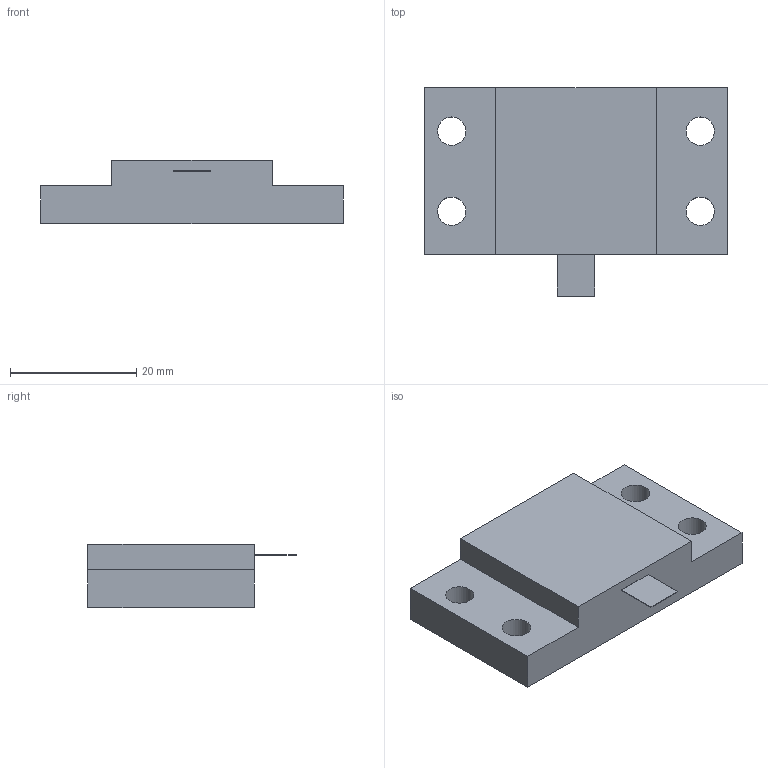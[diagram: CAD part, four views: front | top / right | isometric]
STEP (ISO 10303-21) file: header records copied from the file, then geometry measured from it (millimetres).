
FILE_DESCRIPTION(('STEP AP203'), '1');
FILE_NAME('P1-170-800-45', '', ('UNSPECIFIED'), ('UNSPECIFIED'), 'ASCON STEP Converter 1.6', 'ASCON Math Kernel', '');
FILE_SCHEMA(('CONFIG_CONTROL_DESIGN'));
Length unit declared in the file: millimetre
Bounding box: 48 x 33 x 10 mm (x, y, z)
Volume: 9907.7 mm3; surface area: 4134.2 mm2
Topology: 1 solids, 1 shells, 19 faces, 48 edges, 32 vertices
Faces by surface type: plane 15, cylinder 4
Full cylindrical faces by diameter (mm): 4.5 x4
Entity records: 762 total; most frequent: CARTESIAN_POINT 96, DIRECTION 92, ORIENTED_EDGE 88, EDGE_CURVE 44, LINE 36, VECTOR 36, EDGE_LOOP 32, VERTEX_POINT 32
